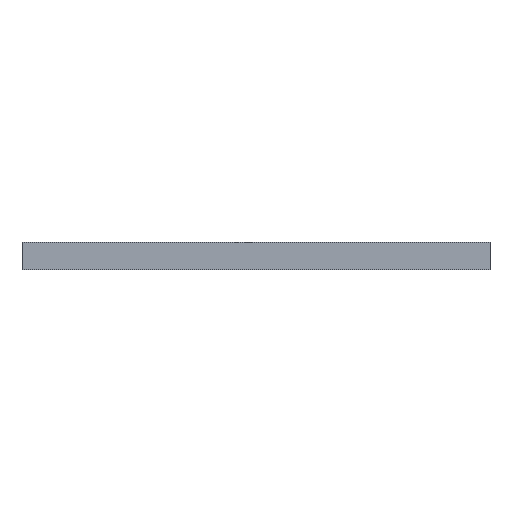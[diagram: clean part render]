
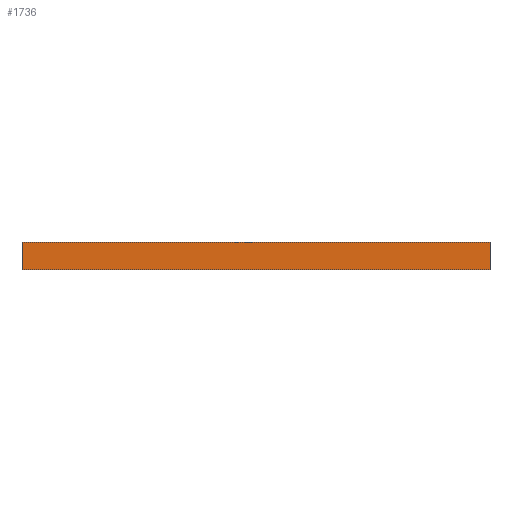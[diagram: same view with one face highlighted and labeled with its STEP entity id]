
A CAD part, front view. The second image highlights one B-rep face of the part: STEP entity #1736.
In plain terms, the highlighted planar face has unit normal (0, -1, 0).
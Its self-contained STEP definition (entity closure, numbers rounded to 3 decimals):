
#40 = VERTEX_POINT('',#41);
#41 = CARTESIAN_POINT('',(47.211,-28.75,-14.));
#50 = PLANE('',#51);
#51 = AXIS2_PLACEMENT_3D('',#52,#53,#54);
#52 = CARTESIAN_POINT('',(68.484,-0.022,-14.));
#53 = DIRECTION('',(0.,0.,1.));
#54 = DIRECTION('',(1.,0.,0.));
#62 = PLANE('',#63);
#63 = AXIS2_PLACEMENT_3D('',#64,#65,#66);
#64 = CARTESIAN_POINT('',(47.211,-0.026,-15.25));
#65 = DIRECTION('',(-1.,-0.,-0.));
#66 = DIRECTION('',(0.,0.,-1.));
#103 = VERTEX_POINT('',#104);
#104 = CARTESIAN_POINT('',(89.75,-28.75,-14.));
#118 = PLANE('',#119);
#119 = AXIS2_PLACEMENT_3D('',#120,#121,#122);
#120 = CARTESIAN_POINT('',(89.75,-0.026,-15.25));
#121 = DIRECTION('',(1.,0.,0.));
#122 = DIRECTION('',(0.,0.,1.));
#130 = EDGE_CURVE('',#103,#40,#131,.T.);
#131 = SURFACE_CURVE('',#132,(#136,#143),.PCURVE_S1.);
#132 = LINE('',#133,#134);
#133 = CARTESIAN_POINT('',(89.75,-28.75,-14.));
#134 = VECTOR('',#135,1.);
#135 = DIRECTION('',(-1.,0.,0.));
#136 = PCURVE('',#50,#137);
#137 = DEFINITIONAL_REPRESENTATION('',(#138),#142);
#138 = LINE('',#139,#140);
#139 = CARTESIAN_POINT('',(21.266,-28.728));
#140 = VECTOR('',#141,1.);
#141 = DIRECTION('',(-1.,0.));
#142 = ( GEOMETRIC_REPRESENTATION_CONTEXT(2) 
PARAMETRIC_REPRESENTATION_CONTEXT() REPRESENTATION_CONTEXT('2D SPACE',''
  ) );
#143 = PCURVE('',#144,#149);
#144 = PLANE('',#145);
#145 = AXIS2_PLACEMENT_3D('',#146,#147,#148);
#146 = CARTESIAN_POINT('',(68.481,-28.75,-15.25));
#147 = DIRECTION('',(-0.,-1.,0.));
#148 = DIRECTION('',(0.,0.,-1.));
#149 = DEFINITIONAL_REPRESENTATION('',(#150),#154);
#150 = LINE('',#151,#152);
#151 = CARTESIAN_POINT('',(-1.25,21.269));
#152 = VECTOR('',#153,1.);
#153 = DIRECTION('',(0.,-1.));
#154 = ( GEOMETRIC_REPRESENTATION_CONTEXT(2) 
PARAMETRIC_REPRESENTATION_CONTEXT() REPRESENTATION_CONTEXT('2D SPACE',''
  ) );
#729 = PLANE('',#730);
#730 = AXIS2_PLACEMENT_3D('',#731,#732,#733);
#731 = CARTESIAN_POINT('',(68.482,-0.025,-16.5));
#732 = DIRECTION('',(0.,0.,1.));
#733 = DIRECTION('',(1.,0.,0.));
#751 = VERTEX_POINT('',#752);
#752 = CARTESIAN_POINT('',(47.211,-28.75,-16.5));
#799 = VERTEX_POINT('',#800);
#800 = CARTESIAN_POINT('',(89.75,-28.75,-16.5));
#821 = EDGE_CURVE('',#799,#751,#822,.T.);
#822 = SURFACE_CURVE('',#823,(#827,#834),.PCURVE_S1.);
#823 = LINE('',#824,#825);
#824 = CARTESIAN_POINT('',(89.75,-28.75,-16.5));
#825 = VECTOR('',#826,1.);
#826 = DIRECTION('',(-1.,0.,0.));
#827 = PCURVE('',#729,#828);
#828 = DEFINITIONAL_REPRESENTATION('',(#829),#833);
#829 = LINE('',#830,#831);
#830 = CARTESIAN_POINT('',(21.268,-28.725));
#831 = VECTOR('',#832,1.);
#832 = DIRECTION('',(-1.,0.));
#833 = ( GEOMETRIC_REPRESENTATION_CONTEXT(2) 
PARAMETRIC_REPRESENTATION_CONTEXT() REPRESENTATION_CONTEXT('2D SPACE',''
  ) );
#834 = PCURVE('',#144,#835);
#835 = DEFINITIONAL_REPRESENTATION('',(#836),#840);
#836 = LINE('',#837,#838);
#837 = CARTESIAN_POINT('',(1.25,21.269));
#838 = VECTOR('',#839,1.);
#839 = DIRECTION('',(0.,-1.));
#840 = ( GEOMETRIC_REPRESENTATION_CONTEXT(2) 
PARAMETRIC_REPRESENTATION_CONTEXT() REPRESENTATION_CONTEXT('2D SPACE',''
  ) );
#1716 = EDGE_CURVE('',#40,#751,#1717,.T.);
#1717 = SURFACE_CURVE('',#1718,(#1722,#1729),.PCURVE_S1.);
#1718 = LINE('',#1719,#1720);
#1719 = CARTESIAN_POINT('',(47.211,-28.75,-15.));
#1720 = VECTOR('',#1721,1.);
#1721 = DIRECTION('',(0.,0.,-1.));
#1722 = PCURVE('',#62,#1723);
#1723 = DEFINITIONAL_REPRESENTATION('',(#1724),#1728);
#1724 = LINE('',#1725,#1726);
#1725 = CARTESIAN_POINT('',(-0.25,28.724));
#1726 = VECTOR('',#1727,1.);
#1727 = DIRECTION('',(1.,0.));
#1728 = ( GEOMETRIC_REPRESENTATION_CONTEXT(2) 
PARAMETRIC_REPRESENTATION_CONTEXT() REPRESENTATION_CONTEXT('2D SPACE',''
  ) );
#1729 = PCURVE('',#144,#1730);
#1730 = DEFINITIONAL_REPRESENTATION('',(#1731),#1735);
#1731 = LINE('',#1732,#1733);
#1732 = CARTESIAN_POINT('',(-0.25,-21.269));
#1733 = VECTOR('',#1734,1.);
#1734 = DIRECTION('',(1.,0.));
#1735 = ( GEOMETRIC_REPRESENTATION_CONTEXT(2) 
PARAMETRIC_REPRESENTATION_CONTEXT() REPRESENTATION_CONTEXT('2D SPACE',''
  ) );
#1736 = ADVANCED_FACE('',(#1737),#144,.T.);
#1737 = FACE_BOUND('',#1738,.T.);
#1738 = EDGE_LOOP('',(#1739,#1740,#1741,#1742));
#1739 = ORIENTED_EDGE('',*,*,#130,.T.);
#1740 = ORIENTED_EDGE('',*,*,#1716,.T.);
#1741 = ORIENTED_EDGE('',*,*,#821,.F.);
#1742 = ORIENTED_EDGE('',*,*,#1743,.F.);
#1743 = EDGE_CURVE('',#103,#799,#1744,.T.);
#1744 = SURFACE_CURVE('',#1745,(#1749,#1756),.PCURVE_S1.);
#1745 = LINE('',#1746,#1747);
#1746 = CARTESIAN_POINT('',(89.75,-28.75,-15.));
#1747 = VECTOR('',#1748,1.);
#1748 = DIRECTION('',(0.,0.,-1.));
#1749 = PCURVE('',#144,#1750);
#1750 = DEFINITIONAL_REPRESENTATION('',(#1751),#1755);
#1751 = LINE('',#1752,#1753);
#1752 = CARTESIAN_POINT('',(-0.25,21.269));
#1753 = VECTOR('',#1754,1.);
#1754 = DIRECTION('',(1.,0.));
#1755 = ( GEOMETRIC_REPRESENTATION_CONTEXT(2) 
PARAMETRIC_REPRESENTATION_CONTEXT() REPRESENTATION_CONTEXT('2D SPACE',''
  ) );
#1756 = PCURVE('',#118,#1757);
#1757 = DEFINITIONAL_REPRESENTATION('',(#1758),#1762);
#1758 = LINE('',#1759,#1760);
#1759 = CARTESIAN_POINT('',(0.25,28.724));
#1760 = VECTOR('',#1761,1.);
#1761 = DIRECTION('',(-1.,0.));
#1762 = ( GEOMETRIC_REPRESENTATION_CONTEXT(2) 
PARAMETRIC_REPRESENTATION_CONTEXT() REPRESENTATION_CONTEXT('2D SPACE',''
  ) );
